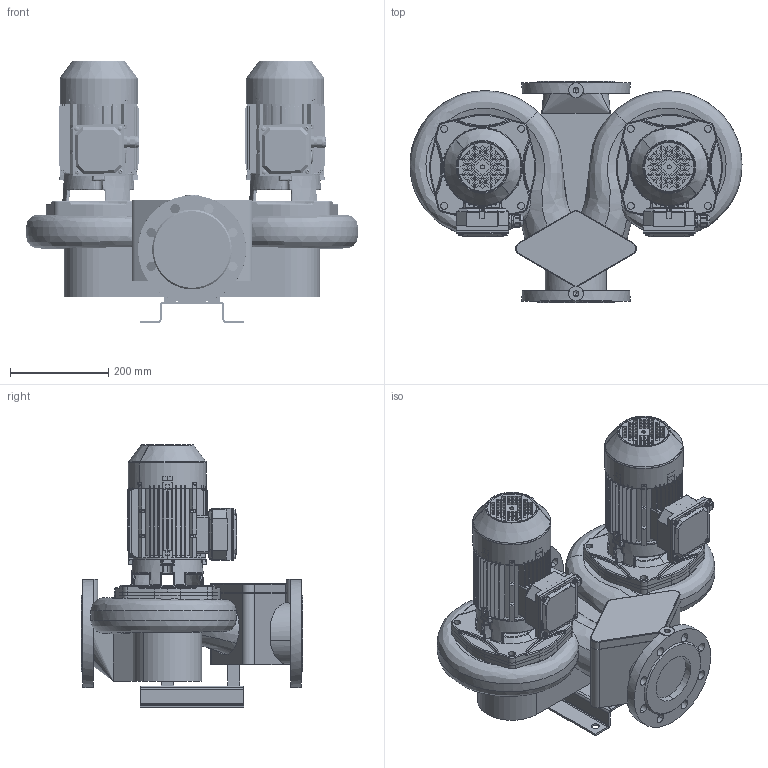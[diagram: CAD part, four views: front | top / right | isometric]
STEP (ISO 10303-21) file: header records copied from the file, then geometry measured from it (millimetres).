
FILE_DESCRIPTION(('STEP AP214'),'1');
FILE_NAME('export.stp','2018-05-28T12:37:34',(' '),(' '),'Spatial InterOp 3D',' ',' ');
FILE_SCHEMA(('AUTOMOTIVE_DESIGN { 1 0 10303 214 1 1 1 1 }'));
Length unit declared in the file: millimetre
Products named in the file (27): W_AT11024750KP80; V_TLL65AB80A1102; V_PPAT1102; V_JALKA35973; 160022; 160003; V_MKP80-2_F19; 160141; 160137; 160138; 160139; 160140; Koura_Ale_M5; Plug_Blind_M20; Sealing_Plug_M20; DIN_7985-M5X8; DIN_7985-M5X12; 480032; 480031___; 480034; 480033___; 160133
Assembly tree (46 placements, depth 4):
  W_AT11024750KP80
    V_TLL65AB80A1102  x2
    V_PPAT1102
    V_JALKA35973
    V_MKP80-2_F19
      160022
        160003
      160141
        160137
        160138
        160139
        160140
        Koura_Ale_M5
        Plug_Blind_M20
        Sealing_Plug_M20
        DIN_7985-M5X8
        DIN_7985-M5X12  x4
      480032
        480031___
      480034
        480033___
      160133
    V_MKP80-2_F19
      160022
        160003
      160141
        160137
        160138
        160139
        160140
        Koura_Ale_M5
        Plug_Blind_M20
        Sealing_Plug_M20
        DIN_7985-M5X8
        DIN_7985-M5X12  x4
      480032
        480031___
      480034
        480033___
      160133
Bounding box: 675.75 x 450 x 534.11 mm (x, y, z)
Volume: 28325463.9 mm3; surface area: 4009093.1 mm2
Topology: 36 solids, 36 shells, 5532 faces, 14464 edges, 8990 vertices
Faces by surface type: plane 2121, cylinder 1771, bspline 666, torus 566, cone 280, sphere 128
Entity records: 115594 total; most frequent: CARTESIAN_POINT 42455, ORIENTED_EDGE 14850, DIRECTION 13671, EDGE_CURVE 7425, AXIS2_PLACEMENT_3D 5191, VERTEX_POINT 4665, LINE 3289, VECTOR 3289
